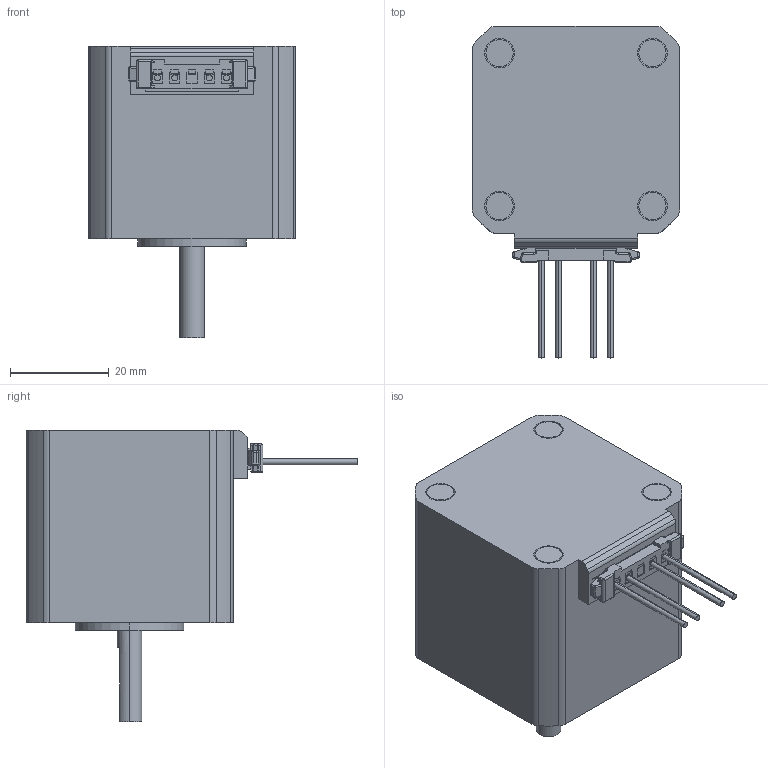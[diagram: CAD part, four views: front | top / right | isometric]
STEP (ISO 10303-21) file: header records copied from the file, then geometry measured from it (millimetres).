
FILE_DESCRIPTION (( 'STEP AP203' ), '1' );
FILE_NAME ('B1261A.step', '2022-10-19T08:36:04', ( '' ), ( '' ), 'SwSTEP 2.0', 'SolidWorks 2020', '' );
FILE_SCHEMA (( 'CONFIG_CONTROL_DESIGN' ));
Length unit declared in the file: millimetre
Products named in the file (1): B1261A
Bounding box: 42 x 67.3 x 59 mm (x, y, z)
Volume: 69321.5 mm3; surface area: 12090.9 mm2
Topology: 2 solids, 12 shells, 443 faces, 1102 edges, 706 vertices
Faces by surface type: plane 314, cylinder 105, sphere 12, bspline 8, torus 4
Entity records: 13015 total; most frequent: CARTESIAN_POINT 2464, ORIENTED_EDGE 2184, DIRECTION 2108, EDGE_CURVE 1092, LINE 852, VECTOR 852, VERTEX_POINT 704, AXIS2_PLACEMENT_3D 628
